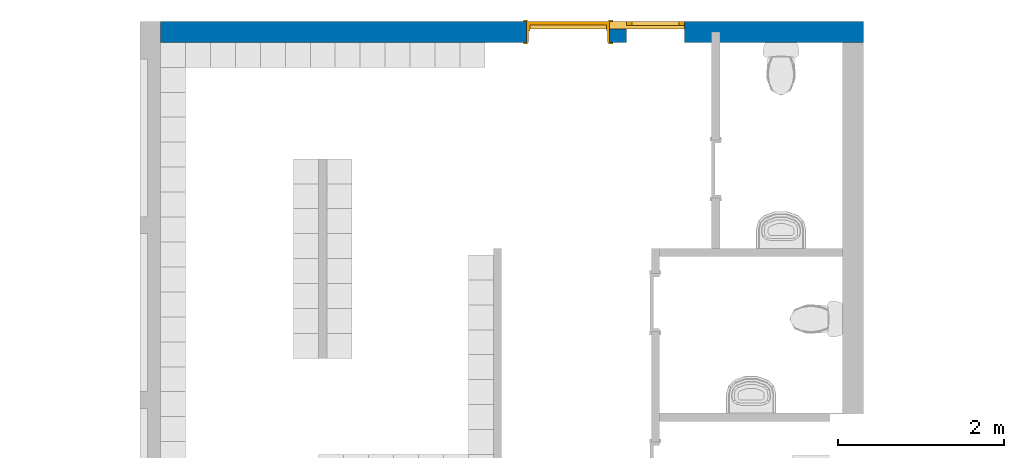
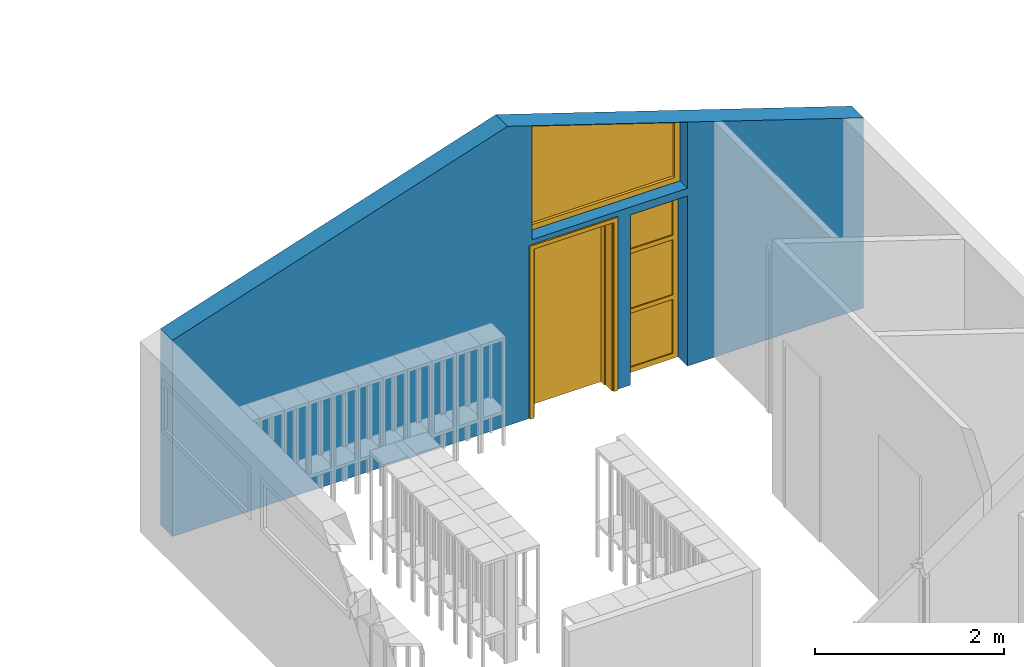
# One storey, part 24 of 48: 2 windows, 1 door, 1 wall, 3 openings.
"""IFC2X3 building model written with IfcOpenShell, lengths in millimetres."""

from ifc_helpers import new_model, entity, si_unit, converted_unit, derived_unit, money_unit, direction, frame, origin_with_axes, place, context, subcontext, project, spatial, open_shell, faceted_brep, surface_model, source, transform, mapped, material, type_object, element, fill, save


model = new_model("IFC2X3")

# Units and contexts
model_context = context("Model", 3, precision=0.01, world=origin_with_axes(), true_north=direction((0.0, 1.0)))
body_context = subcontext(model_context, "Body", "Model", "MODEL_VIEW")
ifc_project = project(units=[si_unit("LENGTHUNIT", "METRE", prefix="MILLI"), si_unit("AREAUNIT", "SQUARE_METRE"), si_unit("VOLUMEUNIT", "CUBIC_METRE"), converted_unit("PLANEANGLEUNIT", "DEGREE", entity("IfcPlaneAngleMeasure", 0.0174532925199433), si_unit("PLANEANGLEUNIT", "RADIAN"), dimensions=[0, 0, 0, 0, 0, 0, 0]), money_unit("USD"), converted_unit("TIMEUNIT", "Year", entity("IfcTimeMeasure", 31557600.0), si_unit("TIMEUNIT", "SECOND"), dimensions=[0, 0, 1, 0, 0, 0, 0]), si_unit("MASSUNIT", "GRAM", prefix="KILO"), si_unit("THERMODYNAMICTEMPERATUREUNIT", "DEGREE_CELSIUS"), si_unit("LUMINOUSINTENSITYUNIT", "LUMEN"), si_unit("ENERGYUNIT", "JOULE", prefix="MEGA"), derived_unit("THERMALCONDUCTANCEUNIT", [(si_unit("POWERUNIT", "WATT"), 1), (si_unit("LENGTHUNIT", "METRE"), -1), (si_unit("THERMODYNAMICTEMPERATUREUNIT", "KELVIN"), -1)]), derived_unit("SPECIFICHEATCAPACITYUNIT", [(si_unit("ENERGYUNIT", "JOULE"), 1), (si_unit("MASSUNIT", "GRAM", prefix="KILO"), -1), (si_unit("THERMODYNAMICTEMPERATUREUNIT", "KELVIN"), -1)]), derived_unit("MASSDENSITYUNIT", [(si_unit("MASSUNIT", "GRAM", prefix="KILO"), 1), (si_unit("VOLUMEUNIT", "CUBIC_METRE"), -1)])], contexts=[model_context])

# Site, building, storey
site_placement = place(None, origin_with_axes())
site = spatial("IfcSite", under=ifc_project, at=site_placement, Name="Site", CompositionType="ELEMENT")
building_placement = place(site_placement, origin_with_axes())
building = spatial("IfcBuilding", under=site, at=building_placement, Name="Building", CompositionType="ELEMENT")
storey_placement = place(building_placement, frame((0.0, 0.0, 3300.0), z_axis=(0.0, 0.0, 1.0), x_axis=(1.0, 0.0, 0.0)))
storey = spatial("IfcBuildingStorey", under=building, at=storey_placement, Name="1 ETG", CompositionType="ELEMENT", Elevation=3300.0)

# Wall, openings, windows, door
ifc_material = material(Name="GENERIC - INTERNAL FILLER")
wall_type = type_object("IfcWallType", Name="GENERIC - INTERNAL FILLER 250", PredefinedType="NOTDEFINED")
wall_placement = place(storey_placement, frame((34025.0168990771, 29000.0, 0.0), z_axis=(0.0, 0.0, 1.0), x_axis=(1.0, 0.0, 0.0)))
wall = element("IfcWall", 1, at=wall_placement, inside=storey, type_object=wall_type, material=ifc_material, Name="SW - 001", context=body_context, shape_type="Brep", body=[
    faceted_brep([(4524.999997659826, 124.9999963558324, 2200.0), (4524.999997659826, 125.0, 0.0), (125.0, 125.0, 0.0), (125.0, 124.9999966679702, 2538.091124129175), (4224.999731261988, 124.9999963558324, 3870.261791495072), (8574.999411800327, 124.999997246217, 2456.861216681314), (8574.998992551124, 125.0, 0.0), (6424.999997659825, 125.0, 0.0), (6424.999997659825, 124.9999963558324, 2200.0), (5724.999997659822, 124.9999963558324, 2200.0), (5724.999997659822, 125.0, 0.0), (5524.999997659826, 125.0, 0.0), (5524.999997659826, 124.9999963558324, 2200.0), (6424.999997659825, 125.0, 3150.0), (4524.999997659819, 125.0, 3767.347422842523), (4524.999997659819, 125.0, 2300.000000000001), (6424.999997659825, 125.0, 2300.000000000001), (4524.999997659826, -125.0, 2200.0), (4524.999997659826, -125.0, 0.0), (125.0, -125.0, 0.0), (125.0, -125.0, 2538.091159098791), (4224.999730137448, -125.0, 3870.261791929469), (8574.999415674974, -125.0, 2456.861215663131), (8574.99902750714, -125.0, 0.0), (6424.999997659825, -125.0, 0.0), (6424.999997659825, -125.0, 2200.0), (5724.999997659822, -125.0, 2200.0), (5724.999997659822, -125.0, 0.0), (5524.999997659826, -125.0, 0.0), (5524.999997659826, -125.0, 2200.0), (6424.999997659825, -125.0, 3150.0), (4524.999997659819, -125.0, 3767.347422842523), (4524.999997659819, -125.0, 2300.000000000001), (6424.999997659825, -125.0, 2300.000000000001)], [[[0, 1, 2, 3, 4, 5, 6, 7, 8, 9, 10, 11, 12], [13, 14, 15, 16]], [[1, 0, 17, 18]], [[1, 18, 19, 2]], [[2, 19, 20, 3]], [[20, 21, 4, 3]], [[4, 21, 22, 5]], [[23, 6, 5, 22]], [[7, 6, 23, 24]], [[7, 24, 25, 8]], [[8, 25, 26, 9]], [[9, 26, 27, 10]], [[28, 11, 10, 27]], [[12, 11, 28, 29]], [[0, 12, 29, 17]], [[30, 31, 14, 13]], [[31, 32, 15, 14]], [[32, 33, 16, 15]], [[33, 30, 13, 16]], [[29, 28, 27, 26, 25, 24, 23, 22, 21, 20, 19, 18, 17], [30, 33, 32, 31]]]),
])
opening_1_placement = place(wall_placement, frame((5474.999997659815, 0.0, 2300.000000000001), z_axis=(0.0, 0.0, 1.0), x_axis=(1.0, 0.0, 0.0)))
opening_1 = element("IfcOpeningElement", 2, at=opening_1_placement, cuts=wall, Name="WD - 001", context=body_context, shape_type="Brep", body=[
    faceted_brep([(-950.0000000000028, -126.0000000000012, 1467.347422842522), (-950.0000000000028, -126.0000000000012, 0.0), (950.0000000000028, -126.0000000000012, 0.0), (950.0000000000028, -126.0000000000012, 849.9999999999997), (-950.0000000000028, 126.0000000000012, 1467.347422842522), (-950.0000000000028, 126.0000000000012, 0.0), (950.0000000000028, 126.0000000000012, 0.0), (950.0000000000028, 126.0000000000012, 849.9999999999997)], [[[0, 1, 2, 3]], [[4, 5, 1, 0]], [[5, 6, 2, 1]], [[6, 7, 3, 2]], [[7, 4, 0, 3]], [[6, 5, 4, 7]]]),
])
opening_2_placement = place(wall_placement, frame((6074.999997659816, 0.0, 0.0), z_axis=(0.0, 0.0, 1.0), x_axis=(1.0, 0.0, 0.0)))
opening_2 = element("IfcOpeningElement", 3, at=opening_2_placement, cuts=wall, Name="WD - 001", context=body_context, shape_type="Brep", body=[
    faceted_brep([(-350.0000000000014, -126.0000000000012, 2200.0), (-350.0000000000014, -126.0000000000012, 0.0), (350.0000000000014, -126.0000000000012, 0.0), (350.0000000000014, -126.0000000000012, 2200.0), (-350.0000000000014, 126.0000000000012, 2200.0), (-350.0000000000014, 126.0000000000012, 0.0), (350.0000000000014, 126.0000000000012, 0.0), (350.0000000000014, 126.0000000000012, 2200.0)], [[[0, 1, 2, 3]], [[4, 5, 1, 0]], [[5, 6, 2, 1]], [[6, 7, 3, 2]], [[7, 4, 0, 3]], [[6, 5, 4, 7]]]),
])
opening_3_placement = place(wall_placement, frame((5024.999997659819, 0.0, 0.0), z_axis=(0.0, 0.0, 1.0), x_axis=(1.0, 0.0, 0.0)))
opening_3 = element("IfcOpeningElement", 4, at=opening_3_placement, cuts=wall, Name="DOO - 002", context=body_context, shape_type="Brep", body=[
    faceted_brep([(-500.0, 126.0000000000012, 2200.0), (500.0, 126.0000000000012, 2200.0), (500.0, 126.0000000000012, 0.0), (-500.0, 126.0000000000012, 0.0), (-536.9999999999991, 126.0000000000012, 0.0), (-536.9999999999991, 126.0000000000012, 2237.0), (536.9999999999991, 126.0000000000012, 2237.0), (536.9999999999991, 126.0000000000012, 0.0), (-500.0, 125.0, 0.0), (500.0, 125.0, 0.0), (500.0, -125.0, 0.0), (500.0, -126.0000000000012, 0.0), (-500.0, -126.0000000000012, 0.0), (-500.0, -125.0, 0.0), (-536.9999999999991, 125.0, 0.0), (-536.9999999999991, 125.0, 2237.0), (536.9999999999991, 125.0, 2237.0), (536.9999999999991, 125.0, 0.0), (500.0, 125.0, 2200.0), (500.0, -125.0, 2200.0), (536.9999999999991, -125.0, 0.0), (536.9999999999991, -126.0000000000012, 0.0), (536.9999999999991, -126.0000000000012, 2237.0), (-536.9999999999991, -126.0000000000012, 2237.0), (-536.9999999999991, -126.0000000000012, 0.0), (-536.9999999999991, -125.0, 0.0), (-500.0, 125.0, 2200.0), (-500.0, -125.0, 2200.0), (-536.9999999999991, -125.0, 2237.0), (536.9999999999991, -125.0, 2237.0)], [[[0, 1, 2, 3]], [[2, 1, 0, 3, 4, 5, 6, 7]], [[8, 3, 2, 9, 10, 11, 12, 13]], [[3, 8, 14, 4]], [[14, 15, 5, 4]], [[15, 16, 6, 5]], [[16, 17, 7, 6]], [[9, 2, 7, 17]], [[9, 18, 19, 10]], [[11, 10, 20, 21]], [[12, 11, 21, 22, 23, 24]], [[13, 12, 24, 25]], [[26, 8, 13, 27]], [[26, 18, 9, 17, 16, 15, 14, 8]], [[18, 26, 27, 19]], [[10, 19, 27, 13, 25, 28, 29, 20]], [[20, 29, 22, 21]], [[29, 28, 23, 22]], [[28, 25, 24, 23]]]),
])
window_style_1 = type_object("IfcWindowStyle", Name="Vindu med skrå topp", ConstructionType="NOTDEFINED", OperationType="USERDEFINED", ParameterTakesPrecedence=False, Sizeable=False)
shared_shape_1 = source(origin_with_axes(), body_context, "Body", "SurfaceModel", [
    faceted_brep([(883.9999999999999, -92.00000000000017, 1376.506216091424), (950.0, -92.00000000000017, 1376.506216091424), (950.0, 0.0, 1376.506216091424), (883.9999999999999, 0.0, 1376.506216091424), (883.9999999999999, -92.0, 66.0), (950.0, -92.0, 66.0), (950.0, 0.0, 66.0), (883.9999999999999, 0.0, 66.0)], [[[0, 1, 2, 3]], [[0, 4, 5, 1]], [[1, 5, 6, 2]], [[3, 2, 6, 7]], [[4, 0, 3, 7]], [[5, 4, 7, 6]]]),
    faceted_brep([(-883.9999999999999, -92.0, 66.0), (-950.0, -92.0, 66.0), (-950.0, 0.0, 66.0), (-883.9999999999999, 0.0, 66.0), (-883.9999999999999, -92.0000000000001, 802.0481931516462), (-950.0, -92.0000000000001, 802.0481931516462), (-950.0, 0.0, 802.0481931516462), (-883.9999999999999, 0.0, 802.0481931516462)], [[[0, 1, 2, 3]], [[0, 4, 5, 1]], [[1, 5, 6, 2]], [[3, 2, 6, 7]], [[4, 0, 3, 7]], [[5, 4, 7, 6]]]),
    faceted_brep([(950.0, -92.00000000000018, 1467.347422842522), (950.0, -92.00000000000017, 1376.506216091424), (950.0, 0.0, 1376.506216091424), (950.0, 0.0, 1467.347422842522), (-950.0, -92.0000000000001, 850.0), (-950.0, -92.0000000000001, 802.0481931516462), (-883.9999999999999, -92.0000000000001, 802.0481931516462), (883.9999999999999, -92.00000000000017, 1376.506216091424), (883.9999999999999, 0.0, 1376.506216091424), (-883.9999999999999, 0.0, 802.0481931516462), (-950.0, 0.0, 802.0481931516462), (-950.0, 0.0, 850.0)], [[[0, 1, 2, 3]], [[0, 4, 5, 6, 7, 1]], [[1, 7, 8, 2]], [[3, 2, 8, 9, 10, 11]], [[4, 0, 3, 11]], [[5, 4, 11, 10]], [[6, 5, 10, 9]], [[7, 6, 9, 8]]]),
    faceted_brep([(-950.0, -92.0, 0.0), (-950.0, -92.0, 66.0), (-950.0, 0.0, 66.0), (-950.0, 0.0, 0.0), (950.0, -92.0, 0.0), (950.0, -92.0, 66.0), (883.9999999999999, -92.0, 66.0), (-883.9999999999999, -92.0, 66.0), (-883.9999999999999, 0.0, 66.0), (883.9999999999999, 0.0, 66.0), (950.0, 0.0, 66.0), (950.0, 0.0, 0.0)], [[[0, 1, 2, 3]], [[0, 4, 5, 6, 7, 1]], [[1, 7, 8, 2]], [[3, 2, 8, 9, 10, 11]], [[4, 0, 3, 11]], [[5, 4, 11, 10]], [[6, 5, 10, 9]], [[7, 6, 9, 8]]]),
    surface_model("IfcShellBasedSurfaceModel", [(883.9999999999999, -56.0, 66.0), (883.9999999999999, -56.00000000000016, 1376.506216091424), (-883.9999999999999, -56.00000000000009, 802.0481931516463), (-883.9999999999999, -56.0, 66.0)], [open_shell([[[0, 1, 2, 3]]])]),
    surface_model("IfcShellBasedSurfaceModel", [(883.9999999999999, -36.00000000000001, 66.0), (-883.9999999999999, -36.00000000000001, 66.0), (-883.9999999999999, -36.00000000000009, 802.0481931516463), (883.9999999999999, -36.00000000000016, 1376.506216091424)], [open_shell([[[0, 1, 2, 3]]])]),
])
window_1_placement = place(opening_1_placement, frame((950.0000000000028, 0.0, 0.0), z_axis=(0.0, 0.0, 1.0), x_axis=(-1.0, 0.0, 0.0)))
window_1 = element("IfcWindow", 5, at=window_1_placement, inside=storey, type_object=window_style_1, Name="WD - 001", ObjectType="WINDOW", OverallHeight=1467.35, OverallWidth=1900.0, context=body_context, shape_type="MappedRepresentation", body=[
    mapped(shared_shape_1, transform((950.0000000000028, -33.00000000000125, 0.0))),
])
fill(opening_1, window_1)
window_style_2 = type_object("IfcWindowStyle", Name="Vindu variabelt", ConstructionType="NOTDEFINED", OperationType="TRIPLE_PANEL_HORIZONTAL", ParameterTakesPrecedence=False, Sizeable=False)
shared_shape_2 = source(origin_with_axes(), body_context, "Body", "SurfaceModel", [
    faceted_brep([(-284.0000000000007, -50.00000000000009, 764.4329028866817), (-284.0000000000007, 0.0, 764.4329028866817), (-284.0000000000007, 0.0, 820.4329028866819), (-284.0000000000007, -50.0000000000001, 820.4329028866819), (-284.0000000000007, -50.00000000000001, 66.0), (-284.0000000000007, 0.0, 66.0), (-350.0000000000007, 0.0, 66.0), (-350.0000000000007, 0.0, 2134.0), (-284.0000000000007, 0.0, 2134.0), (-284.0000000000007, 0.0, 1593.018749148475), (-284.0000000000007, 0.0, 1537.018749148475), (-284.0000000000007, -50.00000000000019, 1537.018749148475), (-284.0000000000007, -50.0000000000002, 1593.018749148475), (-284.0000000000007, -50.00000000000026, 2134.0), (-350.0000000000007, -50.00000000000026, 2134.0), (-350.0000000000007, -50.00000000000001, 66.0)], [[[0, 1, 2, 3]], [[4, 5, 1, 0]], [[1, 5, 6, 7, 8, 9, 10, 2]], [[3, 2, 10, 11]], [[0, 3, 11, 12, 13, 14, 15, 4]], [[15, 6, 5, 4]], [[14, 7, 6, 15]], [[13, 8, 7, 14]], [[12, 9, 8, 13]], [[11, 10, 9, 12]]]),
    faceted_brep([(284.0000000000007, -50.00000000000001, 66.0), (284.0000000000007, 0.0, 66.0), (350.0000000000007, 0.0, 66.0), (350.0000000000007, -50.00000000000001, 66.0), (284.0000000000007, -50.00000000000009, 764.4329028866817), (284.0000000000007, 0.0, 764.4329028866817), (284.0000000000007, 0.0, 820.4329028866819), (284.0000000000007, 0.0, 1537.018749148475), (284.0000000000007, 0.0, 1593.018749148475), (284.0000000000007, 0.0, 2134.0), (350.0000000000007, 0.0, 2134.0), (350.0000000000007, -50.00000000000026, 2134.0), (284.0000000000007, -50.00000000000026, 2134.0), (284.0000000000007, -50.0000000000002, 1593.018749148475), (284.0000000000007, -50.00000000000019, 1537.018749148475), (284.0000000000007, -50.0000000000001, 820.4329028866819)], [[[0, 1, 2, 3]], [[4, 5, 1, 0]], [[1, 5, 6, 7, 8, 9, 10, 2]], [[3, 2, 10, 11]], [[0, 3, 11, 12, 13, 14, 15, 4]], [[15, 6, 5, 4]], [[14, 7, 6, 15]], [[13, 8, 7, 14]], [[12, 9, 8, 13]], [[11, 10, 9, 12]]]),
    faceted_brep([(-284.0000000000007, -50.0000000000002, 1593.018749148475), (-284.0000000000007, 0.0, 1593.018749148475), (-284.0000000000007, 0.0, 1537.018749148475), (-284.0000000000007, -50.00000000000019, 1537.018749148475), (284.0000000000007, -50.0000000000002, 1593.018749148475), (284.0000000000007, 0.0, 1593.018749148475), (284.0000000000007, 0.0, 1537.018749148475), (284.0000000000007, -50.00000000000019, 1537.018749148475)], [[[0, 1, 2, 3]], [[4, 5, 1, 0]], [[1, 5, 6, 2]], [[3, 2, 6, 7]], [[0, 3, 7, 4]], [[7, 6, 5, 4]]]),
    faceted_brep([(-284.0000000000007, -50.00000000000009, 764.4329028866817), (-284.0000000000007, 0.0, 764.4329028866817), (284.0000000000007, 0.0, 764.4329028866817), (284.0000000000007, -50.00000000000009, 764.4329028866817), (-284.0000000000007, -50.0000000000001, 820.4329028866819), (-284.0000000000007, 0.0, 820.4329028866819), (284.0000000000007, 0.0, 820.4329028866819), (284.0000000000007, -50.0000000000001, 820.4329028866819)], [[[0, 1, 2, 3]], [[4, 5, 1, 0]], [[1, 5, 6, 2]], [[3, 2, 6, 7]], [[0, 3, 7, 4]], [[7, 6, 5, 4]]]),
    faceted_brep([(-284.0000000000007, -50.00000000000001, 66.0), (-284.0000000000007, 0.0, 66.0), (-350.0000000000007, 0.0, 66.0), (-350.0000000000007, -50.00000000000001, 66.0), (284.0000000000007, -50.00000000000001, 66.0), (284.0000000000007, 0.0, 66.0), (350.0000000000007, 0.0, 66.0), (350.0000000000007, 0.0, 0.0), (-350.0000000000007, 0.0, 0.0), (-350.0000000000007, -50.0, 0.0), (350.0000000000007, -50.0, 0.0), (350.0000000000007, -50.00000000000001, 66.0)], [[[0, 1, 2, 3]], [[4, 5, 1, 0]], [[1, 5, 6, 7, 8, 2]], [[3, 2, 8, 9]], [[0, 3, 9, 10, 11, 4]], [[11, 6, 5, 4]], [[10, 7, 6, 11]], [[9, 8, 7, 10]]]),
    faceted_brep([(284.0000000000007, -50.00000000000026, 2134.0), (284.0000000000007, 0.0, 2134.0), (350.0000000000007, 0.0, 2134.0), (350.0000000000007, -50.00000000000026, 2134.0), (-284.0000000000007, -50.00000000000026, 2134.0), (-284.0000000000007, 0.0, 2134.0), (-350.0000000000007, 0.0, 2134.0), (-350.0000000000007, 0.0, 2200.0), (350.0000000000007, 0.0, 2200.0), (350.0000000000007, -50.00000000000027, 2200.0), (-350.0000000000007, -50.00000000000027, 2200.0), (-350.0000000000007, -50.00000000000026, 2134.0)], [[[0, 1, 2, 3]], [[4, 5, 1, 0]], [[1, 5, 6, 7, 8, 2]], [[3, 2, 8, 9]], [[0, 3, 9, 10, 11, 4]], [[11, 6, 5, 4]], [[10, 7, 6, 11]], [[9, 8, 7, 10]]]),
    surface_model("IfcShellBasedSurfaceModel", [(-284.0000000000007, -35.00000000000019, 1593.018749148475), (284.0000000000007, -35.00000000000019, 1593.018749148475), (284.0000000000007, -35.00000000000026, 2134.0), (-284.0000000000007, -35.00000000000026, 2134.0)], [open_shell([[[0, 1, 2, 3]]])]),
    surface_model("IfcShellBasedSurfaceModel", [(-284.0000000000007, -15.00000000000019, 1593.018749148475), (-284.0000000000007, -15.00000000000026, 2134.0), (284.0000000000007, -15.00000000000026, 2134.0), (284.0000000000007, -15.00000000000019, 1593.018749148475)], [open_shell([[[0, 1, 2, 3]]])]),
    surface_model("IfcShellBasedSurfaceModel", [(-284.0000000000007, -35.0000000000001, 820.4329028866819), (284.0000000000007, -35.0000000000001, 820.4329028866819), (284.0000000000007, -35.00000000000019, 1537.018749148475), (-284.0000000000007, -35.00000000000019, 1537.018749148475)], [open_shell([[[0, 1, 2, 3]]])]),
    surface_model("IfcShellBasedSurfaceModel", [(-284.0000000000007, -15.0000000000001, 820.4329028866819), (-284.0000000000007, -15.00000000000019, 1537.018749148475), (284.0000000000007, -15.00000000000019, 1537.018749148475), (284.0000000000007, -15.0000000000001, 820.4329028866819)], [open_shell([[[0, 1, 2, 3]]])]),
    surface_model("IfcShellBasedSurfaceModel", [(-284.0000000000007, -35.00000000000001, 66.0), (284.0000000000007, -35.00000000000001, 66.0), (284.0000000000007, -35.00000000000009, 764.4329028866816), (-284.0000000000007, -35.00000000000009, 764.4329028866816)], [open_shell([[[0, 1, 2, 3]]])]),
    surface_model("IfcShellBasedSurfaceModel", [(-284.0000000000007, -15.00000000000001, 66.0), (-284.0000000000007, -15.0000000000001, 764.4329028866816), (284.0000000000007, -15.0000000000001, 764.4329028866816), (284.0000000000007, -15.00000000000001, 66.0)], [open_shell([[[0, 1, 2, 3]]])]),
])
window_2_placement = place(opening_2_placement, frame((-350.0000000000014, 0.0, 0.0), z_axis=(0.0, 0.0, 1.0), x_axis=(1.0, 0.0, 0.0)))
window_2 = element("IfcWindow", 6, at=window_2_placement, inside=storey, type_object=window_style_2, Name="WD - 001", ObjectType="WINDOW", OverallHeight=2200.0, OverallWidth=700.0, context=body_context, shape_type="MappedRepresentation", body=[
    mapped(shared_shape_2, transform((350.0000000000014, 125.0, 0.0))),
])
fill(opening_2, window_2)
door_style = type_object("IfcDoorStyle", Name="Dør", ConstructionType="NOTDEFINED", OperationType="SINGLE_SWING_LEFT", ParameterTakesPrecedence=False, Sizeable=False)
door_placement = place(opening_3_placement, frame((-500.0, 0.0, 0.0), z_axis=(0.0, 0.0, 1.0), x_axis=(1.0, 0.0, 0.0)))
door = element("IfcDoor", 7, at=door_placement, inside=storey, type_object=door_style, Name="DOO - 002", ObjectType="DOOR", OverallHeight=2200.0, OverallWidth=1000.0, context=body_context, shape_type="Brep", body=[
    faceted_brep([(1000.0, 10.00000000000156, 0.0), (1000.0, -125.0, 0.0), (975.0000000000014, -125.0, 0.0), (975.0000000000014, 10.00000000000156, 0.0), (1000.0, 10.00000000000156, 2200.0), (1000.0, -125.0, 2200.0), (975.0000000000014, -125.0, 2175.0), (975.0000000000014, 10.00000000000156, 2175.0)], [[[0, 1, 2, 3]], [[4, 5, 1, 0]], [[1, 5, 6, 2]], [[3, 2, 6, 7]], [[0, 3, 7, 4]], [[7, 6, 5, 4]]]),
    faceted_brep([(0.0, 10.00000000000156, 2200.0), (0.0, -125.0, 2200.0), (24.99999999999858, -125.0, 2175.0), (24.99999999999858, 10.00000000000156, 2175.0), (0.0, 10.00000000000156, 0.0), (0.0, -125.0, 0.0), (24.99999999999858, -125.0, 0.0), (24.99999999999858, 10.00000000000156, 0.0)], [[[0, 1, 2, 3]], [[4, 5, 1, 0]], [[1, 5, 6, 2]], [[3, 2, 6, 7]], [[0, 3, 7, 4]], [[7, 6, 5, 4]]]),
    faceted_brep([(975.0000000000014, 10.00000000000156, 2175.0), (975.0000000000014, -125.0, 2175.0), (24.99999999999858, -125.0, 2175.0), (24.99999999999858, 10.00000000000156, 2175.0), (1000.0, 10.00000000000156, 2200.0), (1000.0, -125.0, 2200.0), (0.0, -125.0, 2200.0), (0.0, 10.00000000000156, 2200.0)], [[[0, 1, 2, 3]], [[4, 5, 1, 0]], [[1, 5, 6, 2]], [[3, 2, 6, 7]], [[0, 3, 7, 4]], [[7, 6, 5, 4]]]),
    faceted_brep([(1036.999999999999, -143.9999999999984, 0.0), (987.0000000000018, -143.9999999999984, 0.0), (987.0000000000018, -125.0, 0.0), (1036.999999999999, -125.0, 0.0), (1036.999999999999, -144.0000000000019, 2237.0), (987.0000000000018, -144.0000000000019, 2187.0), (987.0000000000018, -125.0, 2187.0), (1036.999999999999, -125.0, 2237.0)], [[[0, 1, 2, 3]], [[0, 4, 5, 1]], [[1, 5, 6, 2]], [[3, 2, 6, 7]], [[4, 0, 3, 7]], [[5, 4, 7, 6]]]),
    faceted_brep([(-36.99999999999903, -144.0000000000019, 2237.0), (12.99999999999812, -144.0000000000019, 2187.0), (12.99999999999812, -125.0, 2187.0), (-36.99999999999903, -125.0, 2237.0), (-36.99999999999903, -143.9999999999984, 0.0), (12.99999999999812, -143.9999999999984, 0.0), (12.99999999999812, -125.0, 0.0), (-36.99999999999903, -125.0, 0.0)], [[[0, 1, 2, 3]], [[0, 4, 5, 1]], [[1, 5, 6, 2]], [[3, 2, 6, 7]], [[4, 0, 3, 7]], [[5, 4, 7, 6]]]),
    faceted_brep([(1036.999999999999, -144.0000000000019, 2237.0), (987.0000000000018, -144.0000000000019, 2187.0), (987.0000000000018, -125.0, 2187.0), (1036.999999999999, -125.0, 2237.0), (-36.99999999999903, -144.0000000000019, 2237.0), (12.99999999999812, -144.0000000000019, 2187.0), (12.99999999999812, -125.0, 2187.0), (-36.99999999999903, -125.0, 2237.0)], [[[0, 1, 2, 3]], [[0, 4, 5, 1]], [[1, 5, 6, 2]], [[3, 2, 6, 7]], [[4, 0, 3, 7]], [[5, 4, 7, 6]]]),
    faceted_brep([(1036.999999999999, 143.9999999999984, 0.0), (1036.999999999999, 125.0, 0.0), (987.0000000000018, 125.0, 0.0), (987.0000000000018, 143.9999999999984, 0.0), (1036.999999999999, 143.9999999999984, 2237.0), (1036.999999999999, 125.0, 2237.0), (987.0000000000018, 125.0, 2187.0), (987.0000000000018, 143.9999999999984, 2187.0)], [[[0, 1, 2, 3]], [[4, 5, 1, 0]], [[1, 5, 6, 2]], [[3, 2, 6, 7]], [[0, 3, 7, 4]], [[7, 6, 5, 4]]]),
    faceted_brep([(-36.99999999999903, 143.9999999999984, 2237.0), (-36.99999999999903, 125.0, 2237.0), (12.99999999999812, 125.0, 2187.0), (12.99999999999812, 143.9999999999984, 2187.0), (-36.99999999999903, 143.9999999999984, 0.0), (-36.99999999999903, 125.0, 0.0), (12.99999999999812, 125.0, 0.0), (12.99999999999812, 143.9999999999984, 0.0)], [[[0, 1, 2, 3]], [[4, 5, 1, 0]], [[1, 5, 6, 2]], [[3, 2, 6, 7]], [[0, 3, 7, 4]], [[7, 6, 5, 4]]]),
    faceted_brep([(1036.999999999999, 143.9999999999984, 2237.0), (1036.999999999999, 125.0, 2237.0), (987.0000000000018, 125.0, 2187.0), (987.0000000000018, 143.9999999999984, 2187.0), (-36.99999999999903, 143.9999999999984, 2237.0), (-36.99999999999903, 125.0, 2237.0), (12.99999999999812, 125.0, 2187.0), (12.99999999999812, 143.9999999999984, 2187.0)], [[[0, 1, 2, 3]], [[4, 5, 1, 0]], [[1, 5, 6, 2]], [[3, 2, 6, 7]], [[0, 3, 7, 4]], [[7, 6, 5, 4]]]),
    faceted_brep([(1000.0, 125.0, 0.0), (1000.0, 10.00000000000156, 0.0), (960.0000000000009, 10.00000000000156, 0.0), (960.0000000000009, 125.0, 0.0), (1000.0, 125.0, 2160.0), (1000.0, 10.00000000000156, 2160.0), (960.0000000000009, 10.00000000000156, 2160.0), (960.0000000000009, 125.0, 2160.0)], [[[0, 1, 2, 3]], [[4, 5, 1, 0]], [[1, 5, 6, 2]], [[3, 2, 6, 7]], [[0, 3, 7, 4]], [[7, 6, 5, 4]]]),
    faceted_brep([(0.0, 125.0, 0.0), (0.0, 10.00000000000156, 0.0), (0.0, 10.00000000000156, 2160.0), (0.0, 125.0, 2160.0), (39.99999999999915, 125.0, 0.0), (39.99999999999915, 10.00000000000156, 0.0), (39.99999999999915, 10.00000000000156, 2160.0), (39.99999999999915, 125.0, 2160.0)], [[[0, 1, 2, 3]], [[4, 5, 1, 0]], [[1, 5, 6, 2]], [[3, 2, 6, 7]], [[0, 3, 7, 4]], [[7, 6, 5, 4]]]),
    faceted_brep([(1000.0, 125.0, 2200.0), (1000.0, 10.00000000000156, 2200.0), (1000.0, 10.00000000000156, 2160.0), (1000.0, 125.0, 2160.0), (0.0, 125.0, 2200.0), (0.0, 10.00000000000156, 2200.0), (0.0, 10.00000000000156, 2160.0), (39.99999999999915, 10.00000000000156, 2160.0), (960.0000000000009, 10.00000000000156, 2160.0), (960.0000000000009, 125.0, 2160.0), (39.99999999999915, 125.0, 2160.0), (0.0, 125.0, 2160.0)], [[[0, 1, 2, 3]], [[4, 5, 1, 0]], [[1, 5, 6, 7, 8, 2]], [[3, 2, 8, 9]], [[0, 3, 9, 10, 11, 4]], [[11, 6, 5, 4]], [[10, 7, 6, 11]], [[9, 8, 7, 10]]]),
    faceted_brep([(39.99999999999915, 125.0, 0.0), (960.0000000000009, 125.0, 0.0), (960.0000000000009, 85.00000000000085, 0.0), (39.99999999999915, 85.00000000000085, 0.0), (39.99999999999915, 125.0, 2160.0), (960.0000000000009, 125.0, 2160.0), (960.0000000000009, 85.00000000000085, 2160.0), (39.99999999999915, 85.00000000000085, 2160.0)], [[[0, 1, 2, 3]], [[0, 4, 5, 1]], [[1, 5, 6, 2]], [[3, 2, 6, 7]], [[4, 0, 3, 7]], [[5, 4, 7, 6]]]),
])
fill(opening_3, door)

save(model, "model.ifc")
